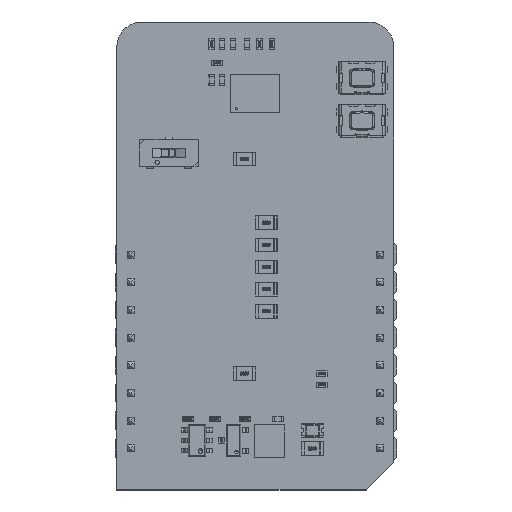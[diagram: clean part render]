
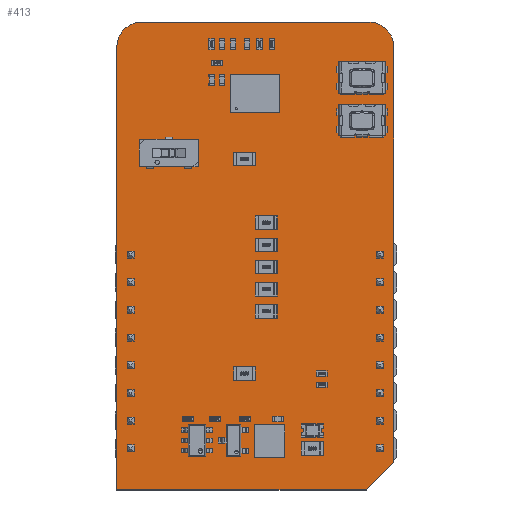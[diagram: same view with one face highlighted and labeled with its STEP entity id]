
A CAD part, top view. The second image highlights one B-rep face of the part: STEP entity #413.
In plain terms, the highlighted planar face has unit normal (0, 0, 1).
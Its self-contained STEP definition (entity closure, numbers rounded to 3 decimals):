
#184 = VERTEX_POINT('',#185);
#185 = CARTESIAN_POINT('',(-1.27,-3.81,1.619));
#191 = EDGE_CURVE('',#184,#192,#194,.T.);
#192 = VERTEX_POINT('',#193);
#193 = CARTESIAN_POINT('',(-1.27,36.83,1.619));
#194 = LINE('',#195,#196);
#195 = CARTESIAN_POINT('',(-1.27,-3.81,1.619));
#196 = VECTOR('',#197,1.);
#197 = DIRECTION('',(0.,1.,0.));
#222 = EDGE_CURVE('',#192,#223,#225,.T.);
#223 = VERTEX_POINT('',#224);
#224 = CARTESIAN_POINT('',(1.016,39.116,1.619));
#225 = CIRCLE('',#226,2.288);
#226 = AXIS2_PLACEMENT_3D('',#227,#228,#229);
#227 = CARTESIAN_POINT('',(1.018,36.828,1.619));
#228 = DIRECTION('',(0.,0.,-1.));
#229 = DIRECTION('',(-1.,0.001,0.));
#255 = EDGE_CURVE('',#223,#256,#258,.T.);
#256 = VERTEX_POINT('',#257);
#257 = CARTESIAN_POINT('',(21.844,39.116,1.619));
#258 = LINE('',#259,#260);
#259 = CARTESIAN_POINT('',(1.016,39.116,1.619));
#260 = VECTOR('',#261,1.);
#261 = DIRECTION('',(1.,0.,0.));
#286 = EDGE_CURVE('',#256,#287,#289,.T.);
#287 = VERTEX_POINT('',#288);
#288 = CARTESIAN_POINT('',(24.13,36.83,1.619));
#289 = CIRCLE('',#290,2.288);
#290 = AXIS2_PLACEMENT_3D('',#291,#292,#293);
#291 = CARTESIAN_POINT('',(21.842,36.828,1.619));
#292 = DIRECTION('',(0.,0.,-1.));
#293 = DIRECTION('',(0.001,1.,0.));
#319 = EDGE_CURVE('',#287,#320,#322,.T.);
#320 = VERTEX_POINT('',#321);
#321 = CARTESIAN_POINT('',(24.13,-1.27,1.619));
#322 = LINE('',#323,#324);
#323 = CARTESIAN_POINT('',(24.13,36.83,1.619));
#324 = VECTOR('',#325,1.);
#325 = DIRECTION('',(0.,-1.,0.));
#350 = EDGE_CURVE('',#320,#351,#353,.T.);
#351 = VERTEX_POINT('',#352);
#352 = CARTESIAN_POINT('',(21.59,-3.81,1.619));
#353 = LINE('',#354,#355);
#354 = CARTESIAN_POINT('',(24.13,-1.27,1.619));
#355 = VECTOR('',#356,1.);
#356 = DIRECTION('',(-0.707,-0.707,0.));
#381 = EDGE_CURVE('',#351,#184,#382,.T.);
#382 = LINE('',#383,#384);
#383 = CARTESIAN_POINT('',(21.59,-3.81,1.619));
#384 = VECTOR('',#385,1.);
#385 = DIRECTION('',(-1.,0.,0.));
#413 = ADVANCED_FACE('',(#414),#423,.F.);
#414 = FACE_BOUND('',#415,.F.);
#415 = EDGE_LOOP('',(#416,#417,#418,#419,#420,#421,#422));
#416 = ORIENTED_EDGE('',*,*,#191,.T.);
#417 = ORIENTED_EDGE('',*,*,#222,.T.);
#418 = ORIENTED_EDGE('',*,*,#255,.T.);
#419 = ORIENTED_EDGE('',*,*,#286,.T.);
#420 = ORIENTED_EDGE('',*,*,#319,.T.);
#421 = ORIENTED_EDGE('',*,*,#350,.T.);
#422 = ORIENTED_EDGE('',*,*,#381,.T.);
#423 = PLANE('',#424);
#424 = AXIS2_PLACEMENT_3D('',#425,#426,#427);
#425 = CARTESIAN_POINT('',(11.278,17.566,1.619));
#426 = DIRECTION('',(-0.,-0.,-1.));
#427 = DIRECTION('',(-1.,0.,0.));
